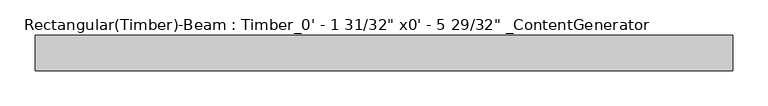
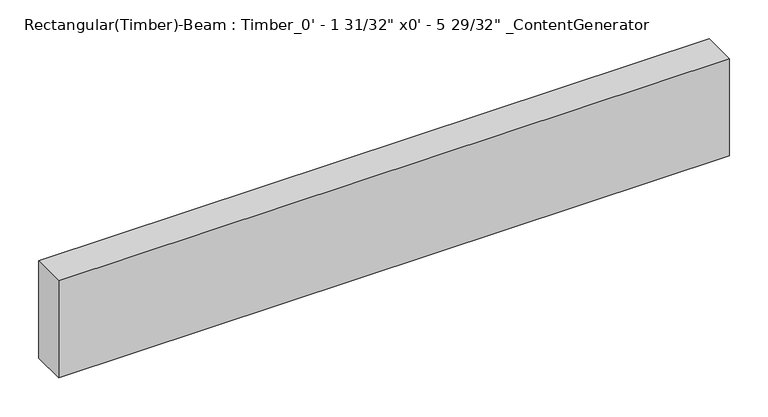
"""IFC4 building model written with IfcOpenShell, lengths in millimetres: beam geometry."""

import ifcopenshell
import ifcopenshell.guid

model = None  # the IFC model being written
_history = None  # IfcOwnerHistory: only IFC2X3 demands one
_inside = {}  # id of a spatial element -> (the spatial element, [elements in it])
_under = {}  # id of a project, library or spatial element -> (it, [spatial elements below it])
_declared = {}  # id of a project -> (the project, [libraries it declares])
_typed = {}  # id of a type object -> (the type object, [elements of that type])
_made_of = {}  # id of a material, layer set ... -> (it, [elements and type objects made of it])


def new_model(schema):
    """Start an empty IFC model of exactly this schema.

    Asked for "IFC4X3", IfcOpenShell would pick the latest addendum, in which some entities
    have other attributes; the version numbers below select the first issue.
    IFC2X3 requires an IfcOwnerHistory on every rooted entity: one is made here for all.
    """
    global model, _history
    if schema == "IFC4X3":
        model = ifcopenshell.file(schema_version=(4, 3, 0, 0))
    else:
        model = ifcopenshell.file(schema=schema)
    _inside.clear()
    _under.clear()
    _declared.clear()
    _typed.clear()
    _made_of.clear()
    _history = None
    if model.schema == "IFC2X3":
        org = make("IfcOrganization", Name="unknown")
        user = make(
            "IfcPersonAndOrganization",
            ThePerson=make("IfcPerson", FamilyName="unknown"),
            TheOrganization=org,
        )
        app = make(
            "IfcApplication",
            ApplicationDeveloper=org,
            Version="unknown",
            ApplicationFullName="unknown",
            ApplicationIdentifier="unknown",
        )
        _history = make(
            "IfcOwnerHistory",
            OwningUser=user,
            OwningApplication=app,
            ChangeAction="ADDED",
            CreationDate=0,
        )
    return model


def make(cls, **values):
    """One entity of the class cls with the attributes given. An attribute that is None is left unset."""
    return model.create_entity(
        cls, **{name: value for name, value in values.items() if value is not None}
    )


def rooted(cls, **values):
    """An entity with a GlobalId (a new one), such as an element, a storey or a relation."""
    return make(cls, GlobalId=ifcopenshell.guid.new(), OwnerHistory=_history, **values)


def si_unit(unit_type, name, prefix=None):
    """IfcSIUnit, for example si_unit("LENGTHUNIT", "METRE", prefix="MILLI")."""
    return make("IfcSIUnit", UnitType=unit_type, Prefix=prefix, Name=name)


def assignment(units):
    """IfcUnitAssignment: the units of a project."""
    return None if units is None else make("IfcUnitAssignment", Units=units)


def point(xyz):
    """IfcCartesianPoint."""
    return None if xyz is None else make("IfcCartesianPoint", Coordinates=xyz)


def direction(xyz):
    """IfcDirection."""
    return None if xyz is None else make("IfcDirection", DirectionRatios=xyz)


def frame(location, z_axis=None, x_axis=None):
    """IfcAxis2Placement3D, a coordinate frame: its origin and axes. An axis left out is left unset."""
    return make(
        "IfcAxis2Placement3D",
        Location=point(location),
        Axis=direction(z_axis),
        RefDirection=direction(x_axis),
    )


def origin():
    """The frame at (0, 0, 0) with its axes left unset."""
    return frame((0.0, 0.0, 0.0))


def place(relative_to, where):
    """IfcLocalPlacement: puts the frame where relative to a parent placement (None: the world)."""
    return make(
        "IfcLocalPlacement", PlacementRelTo=relative_to, RelativePlacement=where
    )


def context(
    kind, dimensions, precision=None, world=None, true_north=None, identifier=None
):
    """IfcGeometricRepresentationContext, for example the 3D "Model" context."""
    return make(
        "IfcGeometricRepresentationContext",
        ContextIdentifier=identifier,
        ContextType=kind,
        CoordinateSpaceDimension=dimensions,
        Precision=precision,
        WorldCoordinateSystem=world,
        TrueNorth=true_north,
    )


def project(units=None, contexts=None):
    """IfcProject with its units and contexts."""
    return rooted(
        "IfcProject",
        Name="project",
        RepresentationContexts=contexts,
        UnitsInContext=assignment(units),
    )


def spatial(cls, under=None, at=None, **own):
    """A site, building, storey or space (cls), placed at a placement, below another one or the project."""
    s = rooted(cls, ObjectPlacement=at, **own)
    if under is not None:
        _under.setdefault(under.id(), (under, []))[1].append(s)
    return s


def polyline(points):
    """IfcPolyline through the points."""
    return make("IfcPolyline", Points=[point(p) for p in points])


def outline(outer, holes=None, kind="AREA"):
    """IfcArbitraryClosedProfileDef: a profile drawn as a closed curve; with holes, ...WithVoids."""
    if holes is None:
        return make("IfcArbitraryClosedProfileDef", ProfileType=kind, OuterCurve=outer)
    return make(
        "IfcArbitraryProfileDefWithVoids",
        ProfileType=kind,
        OuterCurve=outer,
        InnerCurves=holes,
    )


def extrude(swept, where, along, depth):
    """IfcExtrudedAreaSolid: the profile swept, set in the frame where, extruded along a direction by depth."""
    return make(
        "IfcExtrudedAreaSolid",
        SweptArea=swept,
        Position=where,
        ExtrudedDirection=direction(along),
        Depth=depth,
    )


def shape(context_of_items, identifier, shape_type, items):
    """IfcShapeRepresentation: the items that make up one representation, for example the "Body"."""
    return make(
        "IfcShapeRepresentation",
        ContextOfItems=context_of_items,
        RepresentationIdentifier=identifier,
        RepresentationType=shape_type,
        Items=items,
    )


def source(mapping_origin, context_of_items, identifier, shape_type, items):
    """IfcRepresentationMap: a shape defined once, which mapped items show again and again."""
    return make(
        "IfcRepresentationMap",
        MappingOrigin=mapping_origin,
        MappedRepresentation=shape(context_of_items, identifier, shape_type, items),
    )


def transform(
    local_origin,
    x_axis=None,
    y_axis=None,
    z_axis=None,
    scale=None,
    scale2=None,
    scale3=None,
    uniform=True,
):
    """IfcCartesianTransformationOperator3D, or its non-uniform kind. x_axis, y_axis, z_axis: its Axis1, 2, 3."""
    if uniform:
        return make(
            "IfcCartesianTransformationOperator3D",
            Axis1=direction(x_axis),
            Axis2=direction(y_axis),
            LocalOrigin=point(local_origin),
            Scale=scale,
            Axis3=direction(z_axis),
        )
    return make(
        "IfcCartesianTransformationOperator3DnonUniform",
        Axis1=direction(x_axis),
        Axis2=direction(y_axis),
        LocalOrigin=point(local_origin),
        Scale=scale,
        Axis3=direction(z_axis),
        Scale2=scale2,
        Scale3=scale3,
    )


def mapped(mapping_source, mapping_target):
    """IfcMappedItem: shows the shape of a source again, moved by a transform."""
    return make(
        "IfcMappedItem", MappingSource=mapping_source, MappingTarget=mapping_target
    )


def made_of(thing, what):
    """Note that an element or type object is made of a material, layer set ...; save() writes the relation."""
    if what is not None:
        _made_of.setdefault(what.id(), (what, []))[1].append(thing)
    return thing


def element(
    cls,
    number,
    at=None,
    inside=None,
    cuts=None,
    type_object=None,
    material=None,
    context=None,
    identifier="Body",
    shape_type=None,
    held_by="IfcProductDefinitionShape",
    body=None,
    shapes=None,
    **own,
):
    """One element of the class cls, such as IfcWall. Its Tag is "e" and its number.

    at: its placement. inside: the storey or other place that contains it. cuts: it is an
    opening in that element (IfcRelVoidsElement). A single representation is given by context,
    identifier, shape_type and body (its items); several are given by shapes. held_by: the class
    of the entity that holds the representations. save() writes the other relations.
    """
    e = rooted(cls, Tag="e%d" % number, ObjectPlacement=at, **own)
    if body is not None:
        shapes = [shape(context, identifier, shape_type, body)]
    if shapes is not None:
        e.Representation = make(held_by, Representations=shapes)
    if inside is not None:
        _inside.setdefault(inside.id(), (inside, []))[1].append(e)
    if cuts is not None:
        rooted(
            "IfcRelVoidsElement", RelatingBuildingElement=cuts, RelatedOpeningElement=e
        )
    if type_object is not None:
        _typed.setdefault(type_object.id(), (type_object, []))[1].append(e)
    return made_of(e, material)


def aggregate(whole, parts):
    """IfcRelAggregates: a whole, such as a stair, and the parts it consists of."""
    return rooted("IfcRelAggregates", RelatingObject=whole, RelatedObjects=parts)


def save(model, path):
    """Write the relations noted so far, then the file.

    IfcRelAggregates (storeys below a building ...), IfcRelContainedInSpatialStructure (elements
    in a storey), IfcRelDefinesByType, IfcRelAssociatesMaterial and IfcRelDeclares: one each for
    every whole, place, type object, material and project.
    """
    for whole, parts in _under.values():
        aggregate(whole, parts)
    for where, things in _inside.values():
        rooted(
            "IfcRelContainedInSpatialStructure",
            RelatedElements=things,
            RelatingStructure=where,
        )
    for kind, things in _typed.values():
        rooted("IfcRelDefinesByType", RelatedObjects=things, RelatingType=kind)
    for what, things in _made_of.values():
        rooted("IfcRelAssociatesMaterial", RelatedObjects=things, RelatingMaterial=what)
    for by, libraries in _declared.values():
        rooted("IfcRelDeclares", RelatingContext=by, RelatedDefinitions=libraries)
    model.write(path)


def beam_ae0cc952(model_context):
    return source(origin(), model_context, "Body", "SweptSolid", [
        extrude(outline(polyline([(496.6284875, 25.4), (496.6284875, -25.4), (-496.6284875, -25.4), (-496.6284875, 25.4), (496.6284875, 25.4)])), frame((0.0, 0.0, -76.2), z_axis=(0.0, 0.0, 1.0), x_axis=(1.0, 0.0, 0.0)), (0.0, 0.0, 1.0), 152.4),
    ])


if __name__ == "__main__":
    model = new_model("IFC4")
    model_context = context("Model", 3, world=origin())
    ifc_project = project(units=[si_unit("LENGTHUNIT", "METRE", prefix="MILLI")], contexts=[model_context])
    site = spatial("IfcSite", under=ifc_project)
    building = spatial("IfcBuilding", under=site)
    placement = place(None, origin())
    beam_shape = beam_ae0cc952(model_context)
    element("IfcBeam", 1, ObjectType="Rectangular(Timber)-Beam : Timber_0' - 1 31/32\" x0' - 5 29/32\" _ContentGenerator", at=placement, inside=building, context=model_context, shape_type="MappedRepresentation", body=[
        mapped(beam_shape, transform((0.0, 0.0, 0.0), x_axis=(1.0, 0.0, 0.0), y_axis=(0.0, 1.0, 0.0), z_axis=(0.0, 0.0, 1.0))),
    ])
    save(model, "model.ifc")
